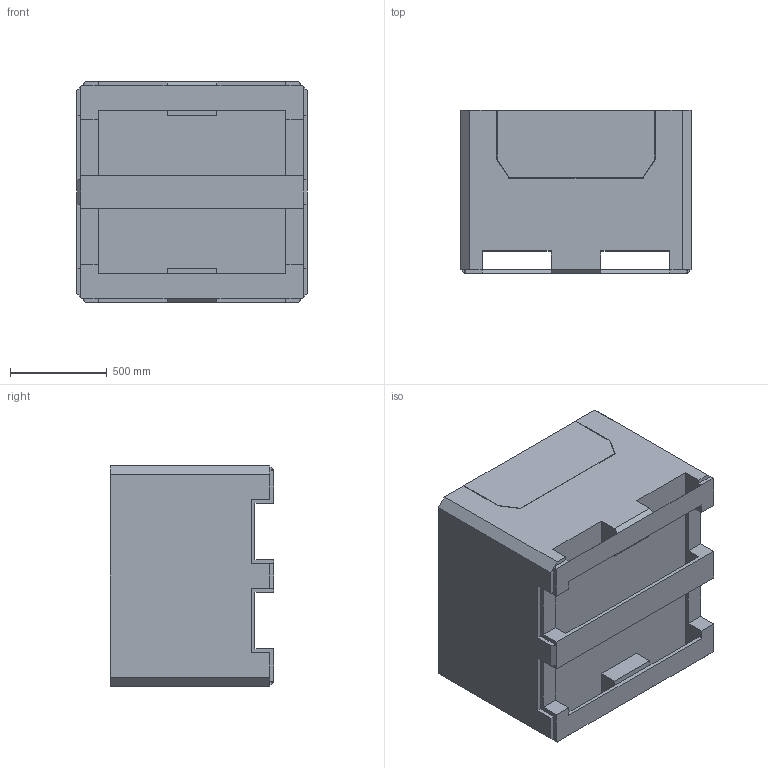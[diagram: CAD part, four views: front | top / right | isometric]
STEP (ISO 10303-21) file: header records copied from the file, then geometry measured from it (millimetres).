
FILE_DESCRIPTION (( 'STEP AP214' ), '1' );
FILE_NAME ('4547-33 EU Block Model.STEP', '2013-07-02T17:05:38', ( 'Bryant Conder' ), ( '' ), 'SwSTEP 2.0', 'SolidWorks 2013', '' );
FILE_SCHEMA (( 'AUTOMOTIVE_DESIGN' ));
Length unit declared in the file: inch
Products named in the file (1): 4547-33 EU Block Model
Bounding box: 1193.8 x 845.82 x 1143 mm (x, y, z)
Volume: 201583567 mm3; surface area: 10649564.7 mm2
Topology: 1 solids, 1 shells, 105 faces, 320 edges, 208 vertices
Faces by surface type: plane 105
Entity records: 3546 total; most frequent: ORIENTED_EDGE 640, CARTESIAN_POINT 634, DIRECTION 532, EDGE_CURVE 320, VECTOR 320, LINE 320, VERTEX_POINT 208, EDGE_LOOP 106
